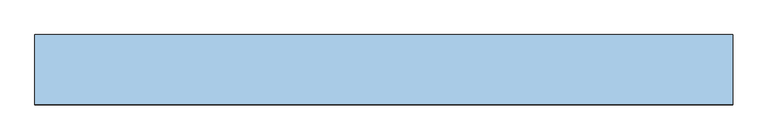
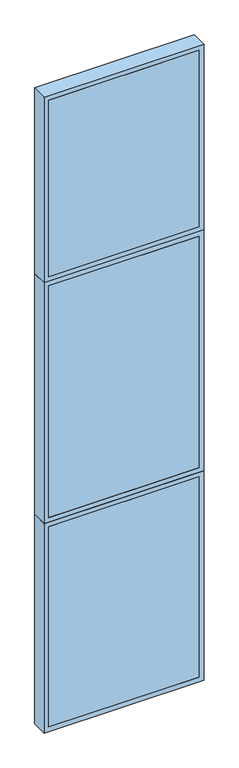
"""IFC4 building model written with IfcOpenShell, lengths in millimetres: window geometry, TRP_CP_ARC_FI_V1 : AL_P03_100_420."""

from ifc_helpers import new_model, si_unit, frame, origin, place, context, project, spatial, polyline, outline, extrude, source, transform, mapped, element, save


def window_1ea6608f(model_context):
    return source(origin(), model_context, "Body", "SweptSolid", [
        extrude(outline(polyline([(470.0, -50.0), (-470.0, -50.0), (-470.0, -30.0), (470.0, -30.0), (470.0, -50.0)])), frame((0.0, 0.0, 30.0), z_axis=(0.0, 0.0, 1.0), x_axis=(1.0, 0.0, 0.0)), (0.0, 0.0, 1.0), 1323.0),
        extrude(outline(polyline([(1383.0, 500.0), (1383.0, -500.0), (0.0, -500.0), (0.0, 500.0), (1383.0, 500.0)]), holes=[polyline([(30.0, 470.0), (30.0, -470.0), (1353.0, -470.0), (1353.0, 470.0), (30.0, 470.0)])]), frame((0.0, -50.0, 0.0), z_axis=(0.0, 1.0, 0.0), x_axis=(0.0, 0.0, 1.0)), (0.0, 0.0, 1.0), 100.0),
        extrude(outline(polyline([(2973.0, 500.0), (2973.0, -500.0), (1383.0, -500.0), (1383.0, 500.0), (2973.0, 500.0)]), holes=[polyline([(1413.0, 470.0), (1413.0, -470.0), (2943.0, -470.0), (2943.0, 470.0), (1413.0, 470.0)])]), frame((0.0, -50.0, 0.0), z_axis=(0.0, 1.0, 0.0), x_axis=(0.0, 0.0, 1.0)), (0.0, 0.0, 1.0), 100.0),
        extrude(outline(polyline([(470.0, -50.0), (-470.0, -50.0), (-470.0, -30.0), (470.0, -30.0), (470.0, -50.0)])), frame((0.0, 0.0, 1413.0), z_axis=(0.0, 0.0, 1.0), x_axis=(1.0, 0.0, 0.0)), (0.0, 0.0, 1.0), 1530.0),
        extrude(outline(polyline([(4200.0, 500.0), (4200.0, -500.0), (2973.0, -500.0), (2973.0, 500.0), (4200.0, 500.0)]), holes=[polyline([(3003.0, 470.0), (3003.0, -470.0), (4170.0, -470.0), (4170.0, 470.0), (3003.0, 470.0)])]), frame((0.0, -50.0, 0.0), z_axis=(0.0, 1.0, 0.0), x_axis=(0.0, 0.0, 1.0)), (0.0, 0.0, 1.0), 100.0),
        extrude(outline(polyline([(470.0, -50.0), (-470.0, -50.0), (-470.0, -30.0), (470.0, -30.0), (470.0, -50.0)])), frame((0.0, 0.0, 3003.0), z_axis=(0.0, 0.0, 1.0), x_axis=(1.0, 0.0, 0.0)), (0.0, 0.0, 1.0), 1167.0),
    ])


if __name__ == "__main__":
    model = new_model("IFC4")
    model_context = context("Model", 3, world=origin())
    ifc_project = project(units=[si_unit("LENGTHUNIT", "METRE", prefix="MILLI")], contexts=[model_context])
    site = spatial("IfcSite", under=ifc_project)
    building = spatial("IfcBuilding", under=site)
    placement = place(None, origin())
    window_shape = window_1ea6608f(model_context)
    element("IfcWindow", 1, ObjectType="TRP_CP_ARC_FI_V1 : AL_P03_100_420", at=placement, inside=building, context=model_context, shape_type="MappedRepresentation", body=[
        mapped(window_shape, transform((0.0, 0.0, 0.0), x_axis=(1.0, 0.0, 0.0), y_axis=(0.0, 1.0, 0.0), z_axis=(0.0, 0.0, 1.0))),
    ])
    save(model, "model.ifc")
